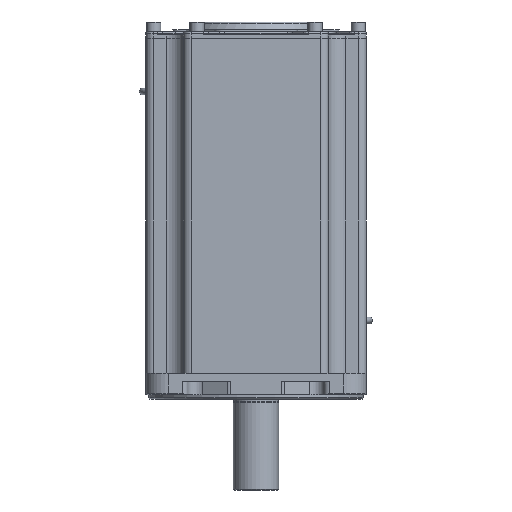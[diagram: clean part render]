
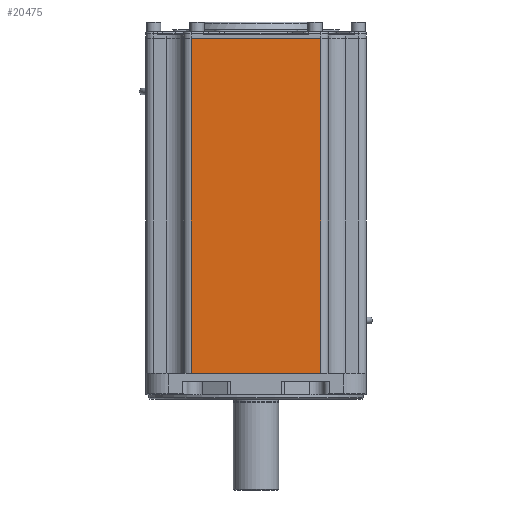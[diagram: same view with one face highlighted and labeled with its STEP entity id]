
A CAD part, front view. The second image highlights one B-rep face of the part: STEP entity #20475.
In plain terms, the highlighted planar face has unit normal (0, -1, 0).
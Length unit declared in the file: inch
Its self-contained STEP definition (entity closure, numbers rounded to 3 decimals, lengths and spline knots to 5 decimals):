
#5789=CARTESIAN_POINT('',(2.14,-3.64,11.41));
#5790=VERTEX_POINT('',#5789);
#6002=CARTESIAN_POINT('',(-2.14,-3.64,11.41));
#6003=VERTEX_POINT('',#6002);
#6010=CARTESIAN_POINT('',(-2.14,-3.64,11.41));
#6011=DIRECTION('',(1.0,0.0,0.0));
#6012=VECTOR('',#6011,4.28);
#6013=LINE('',#6010,#6012);
#6014=EDGE_CURVE('',#6003,#5790,#6013,.T.);
#8060=CARTESIAN_POINT('',(-2.14,-3.64,0.35));
#8061=VERTEX_POINT('',#8060);
#8069=CARTESIAN_POINT('',(-2.14,-3.64,0.35));
#8070=DIRECTION('',(0.0,0.0,1.0));
#8071=VECTOR('',#8070,11.06);
#8072=LINE('',#8069,#8071);
#8073=EDGE_CURVE('',#8061,#6003,#8072,.T.);
#20440=CARTESIAN_POINT('',(2.14,-3.64,0.35));
#20441=VERTEX_POINT('',#20440);
#20442=CARTESIAN_POINT('',(2.14,-3.64,11.41));
#20443=DIRECTION('',(0.0,0.0,-1.0));
#20444=VECTOR('',#20443,11.06);
#20445=LINE('',#20442,#20444);
#20446=EDGE_CURVE('',#5790,#20441,#20445,.T.);
#20459=CARTESIAN_POINT('',(3.64,-3.64,0.0));
#20460=DIRECTION('',(0.0,-1.0,0.0));
#20461=DIRECTION('',(0.0,0.0,-1.0));
#20462=AXIS2_PLACEMENT_3D('',#20459,#20460,#20461);
#20463=PLANE('',#20462);
#20464=ORIENTED_EDGE('',*,*,#6014,.F.);
#20465=ORIENTED_EDGE('',*,*,#8073,.F.);
#20466=CARTESIAN_POINT('',(2.14,-3.64,0.35));
#20467=DIRECTION('',(-1.0,0.0,0.0));
#20468=VECTOR('',#20467,4.28);
#20469=LINE('',#20466,#20468);
#20470=EDGE_CURVE('',#20441,#8061,#20469,.T.);
#20471=ORIENTED_EDGE('',*,*,#20470,.F.);
#20472=ORIENTED_EDGE('',*,*,#20446,.F.);
#20473=EDGE_LOOP('',(#20464,#20465,#20471,#20472));
#20474=FACE_OUTER_BOUND('',#20473,.T.);
#20475=ADVANCED_FACE('',(#20474),#20463,.T.);
